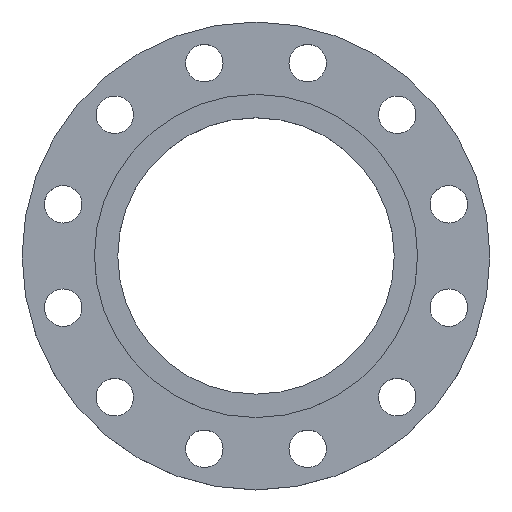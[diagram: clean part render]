
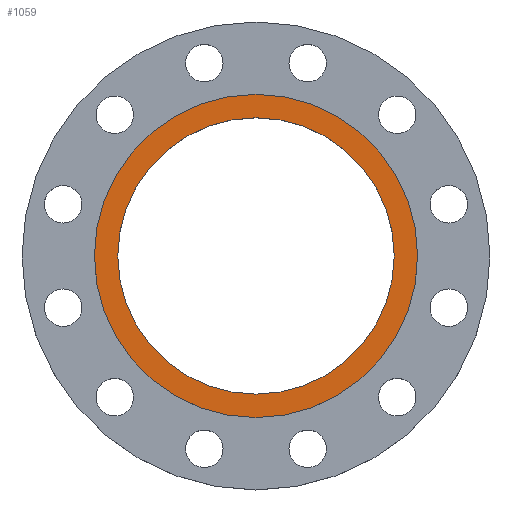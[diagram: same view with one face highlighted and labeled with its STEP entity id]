
A CAD part, top view. The second image highlights one B-rep face of the part: STEP entity #1059.
In plain terms, the highlighted planar face has unit normal (0, 0, 1).
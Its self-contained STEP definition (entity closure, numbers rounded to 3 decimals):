
#57 = AXIS2_PLACEMENT_3D ( 'NONE', #884, #1073, #107 ) ;
#107 = DIRECTION ( 'NONE',  ( 1., 0., 0. ) ) ;
#120 = CIRCLE ( 'NONE', #138, 129.5 ) ;
#138 = AXIS2_PLACEMENT_3D ( 'NONE', #476, #475, #470 ) ;
#174 = CIRCLE ( 'NONE', #178, 129.5 ) ;
#178 = AXIS2_PLACEMENT_3D ( 'NONE', #499, #468, #467 ) ;
#284 = PLANE ( 'NONE',  #57 ) ;
#311 = DIRECTION ( 'NONE',  ( 1., 0., 0. ) ) ;
#313 = DIRECTION ( 'NONE',  ( 0., 0., 1. ) ) ;
#315 = CARTESIAN_POINT ( 'NONE',  ( 0., 0., 0. ) ) ;
#320 = EDGE_CURVE ( 'NONE', #1112, #1255, #120, .T. ) ;
#341 = EDGE_CURVE ( 'NONE', #1255, #1112, #174, .T. ) ;
#375 = DIRECTION ( 'NONE',  ( 1., 0., 0. ) ) ;
#376 = DIRECTION ( 'NONE',  ( 0., 0., 1. ) ) ;
#378 = CARTESIAN_POINT ( 'NONE',  ( 0., 0., 0. ) ) ;
#452 = CIRCLE ( 'NONE', #454, 110.75 ) ;
#454 = AXIS2_PLACEMENT_3D ( 'NONE', #378, #376, #375 ) ;
#467 = DIRECTION ( 'NONE',  ( -1., 0., 0. ) ) ;
#468 = DIRECTION ( 'NONE',  ( 0., 0., -1. ) ) ;
#470 = DIRECTION ( 'NONE',  ( -1., 0., 0. ) ) ;
#475 = DIRECTION ( 'NONE',  ( 0., 0., -1. ) ) ;
#476 = CARTESIAN_POINT ( 'NONE',  ( 0., 0., 0. ) ) ;
#499 = CARTESIAN_POINT ( 'NONE',  ( 0., 0., 0. ) ) ;
#513 = CARTESIAN_POINT ( 'NONE',  ( 129.5, 0., 0. ) ) ;
#546 = CIRCLE ( 'NONE', #557, 110.75 ) ;
#557 = AXIS2_PLACEMENT_3D ( 'NONE', #315, #313, #311 ) ;
#578 = EDGE_CURVE ( 'NONE', #1266, #1310, #452, .T. ) ;
#600 = CARTESIAN_POINT ( 'NONE',  ( -129.5, 0., 0. ) ) ;
#648 = EDGE_CURVE ( 'NONE', #1310, #1266, #546, .T. ) ;
#732 = ORIENTED_EDGE ( 'NONE', *, *, #648, .F. ) ;
#734 = ORIENTED_EDGE ( 'NONE', *, *, #578, .F. ) ;
#735 = ORIENTED_EDGE ( 'NONE', *, *, #341, .F. ) ;
#736 = ORIENTED_EDGE ( 'NONE', *, *, #320, .F. ) ;
#751 = EDGE_LOOP ( 'NONE', ( #732, #734 ) ) ;
#763 = CARTESIAN_POINT ( 'NONE',  ( 110.75, 0., 0. ) ) ;
#884 = CARTESIAN_POINT ( 'NONE',  ( 0., 0., 0. ) ) ;
#969 = FACE_BOUND ( 'NONE', #751, .T. ) ;
#1035 = CARTESIAN_POINT ( 'NONE',  ( -110.75, 0., 0. ) ) ;
#1059 = ADVANCED_FACE ( 'NONE', ( #969, #1106 ), #284, .T. ) ;
#1073 = DIRECTION ( 'NONE',  ( 0., 0., 1. ) ) ;
#1106 = FACE_OUTER_BOUND ( 'NONE', #1177, .T. ) ;
#1112 = VERTEX_POINT ( 'NONE', #513 ) ;
#1177 = EDGE_LOOP ( 'NONE', ( #735, #736 ) ) ;
#1255 = VERTEX_POINT ( 'NONE', #600 ) ;
#1266 = VERTEX_POINT ( 'NONE', #1035 ) ;
#1310 = VERTEX_POINT ( 'NONE', #763 ) ;
